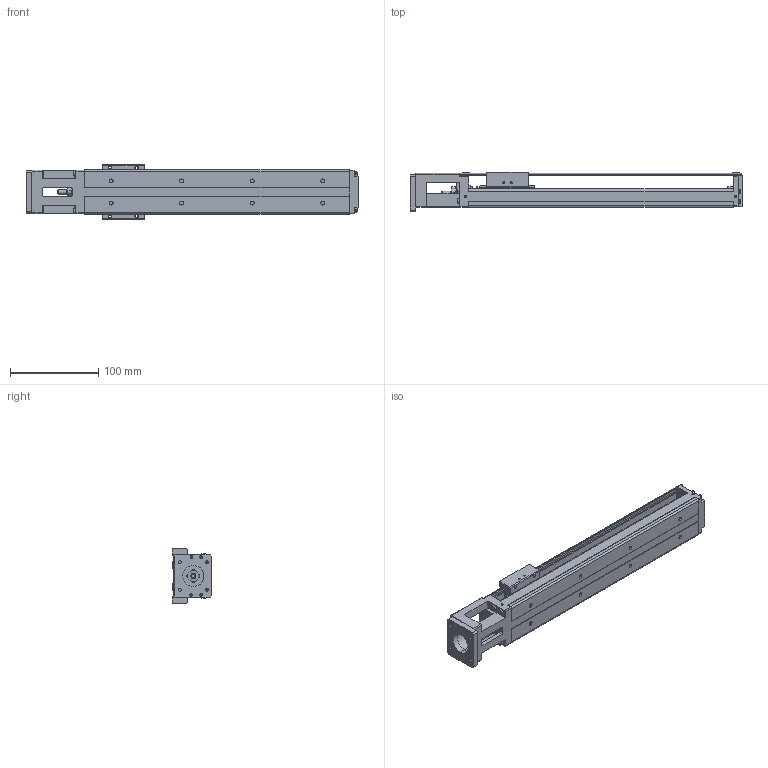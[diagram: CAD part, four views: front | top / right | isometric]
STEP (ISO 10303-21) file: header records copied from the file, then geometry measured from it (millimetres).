
FILE_DESCRIPTION (( 'STEP AP203' ), '1' );
FILE_NAME ('PA-26-300.STEP', '2010-06-10T15:34:01', ( 'render' ), ( '' ), 'SwSTEP 2.0', 'SolidWorks 2009', '' );
FILE_SCHEMA (( 'CONFIG_CONTROL_DESIGN' ));
Length unit declared in the file: millimetre
Products named in the file (1): PA-26-300
Bounding box: 376.5 x 45 x 62 mm (x, y, z)
Volume: 331341.6 mm3; surface area: 142049.7 mm2
Topology: 5 solids, 5 shells, 758 faces, 1965 edges, 1238 vertices
Faces by surface type: plane 309, cylinder 291, cone 136, bspline 22
Entity records: 23501 total; most frequent: CARTESIAN_POINT 4598, DIRECTION 4042, ORIENTED_EDGE 3846, EDGE_CURVE 1923, AXIS2_PLACEMENT_3D 1440, VERTEX_POINT 1238, VECTOR 1162, LINE 1162
